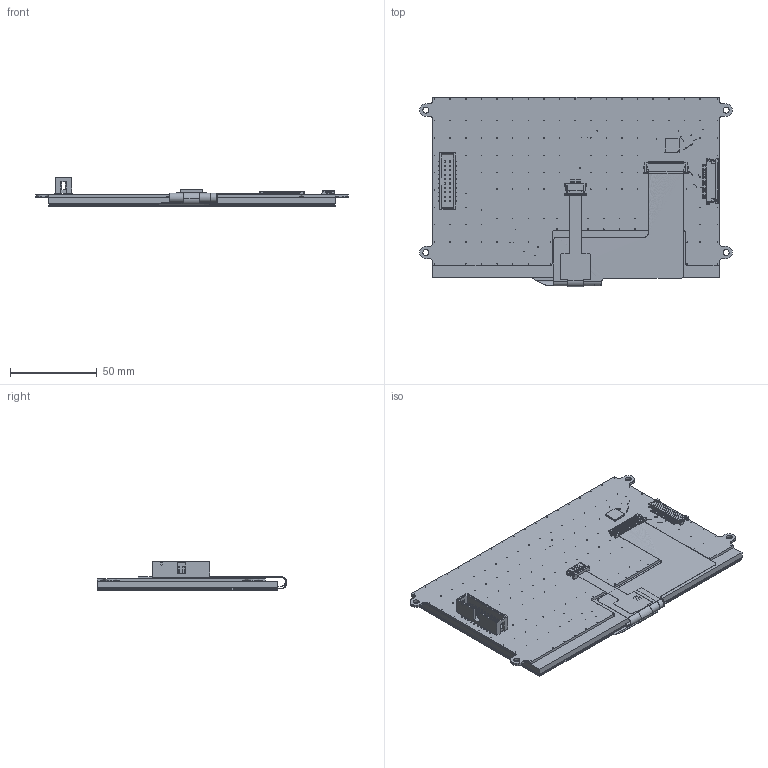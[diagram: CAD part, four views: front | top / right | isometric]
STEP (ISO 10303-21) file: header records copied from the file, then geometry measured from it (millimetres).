
FILE_DESCRIPTION (( 'STEP AP214' ), '1' );
FILE_NAME ('NHD-7.0-800480FT-EVE2-CTP.STEP', '2017-11-16T20:07:54', ( '' ), ( '' ), 'SwSTEP 2.0', 'SolidWorks 2017', '' );
FILE_SCHEMA (( 'AUTOMOTIVE_DESIGN' ));
Length unit declared in the file: millimetre
Products named in the file (9): IDC; NHD_7_0C__11112016_01-44-50; NHD-7.0-800480FT-EVE2-CTP; NHD-7.0-800480EF-ASXN#-CTP; NHD-7.0C-FT813 Controller Board; PQFN50P800X800X100-56N; MOLEX40; MOLEX6; MOLEX20TC
Assembly tree (8 placements, depth 3):
  NHD-7.0-800480FT-EVE2-CTP
    NHD-7.0C-FT813 Controller Board
      NHD_7_0C__11112016_01-44-50
      IDC
      MOLEX20TC
      MOLEX6
      MOLEX40
      PQFN50P800X800X100-56N
    NHD-7.0-800480EF-ASXN#-CTP
Bounding box: 180.1 x 109.31 x 16.48 mm (x, y, z)
Volume: 25243.4 mm3; surface area: 87421.8 mm2
Topology: 9 solids, 14 shells, 5016 faces, 15039 edges, 9812 vertices
Faces by surface type: plane 3975, cylinder 935, cone 101, bspline 5
Entity records: 185657 total; most frequent: CARTESIAN_POINT 31926, ORIENTED_EDGE 29872, DIRECTION 26442, EDGE_CURVE 14995, LINE 12534, VECTOR 12534, VERTEX_POINT 9812, AXIS2_PLACEMENT_3D 6954
